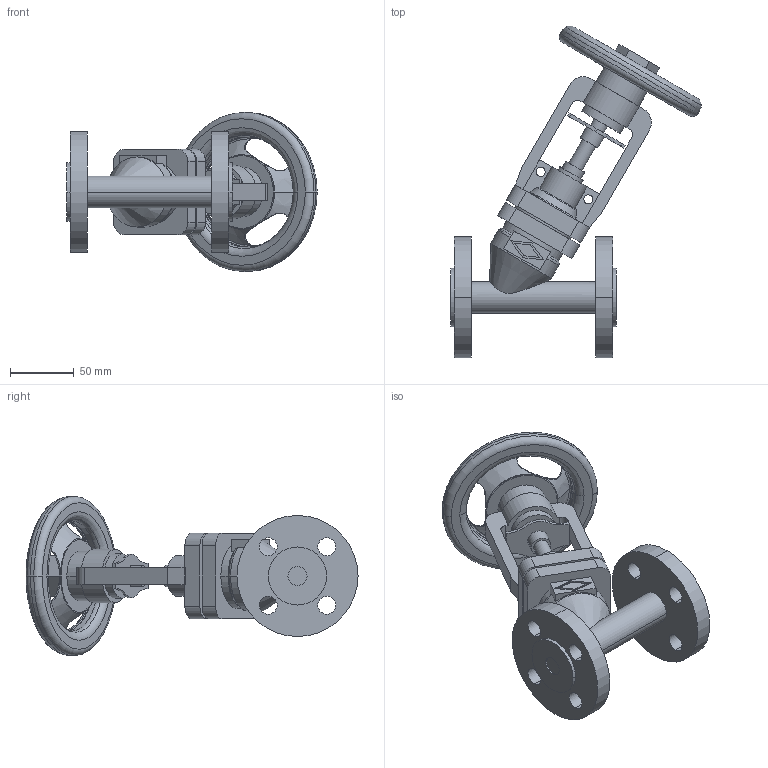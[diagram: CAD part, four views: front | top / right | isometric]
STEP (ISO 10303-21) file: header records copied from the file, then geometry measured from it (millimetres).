
FILE_DESCRIPTION(('OneSpaceDesigner STEP Export'),'2;1');
FILE_NAME('c000003925.stp','2009-09-17T 8:07:17',(''),(''),'OneSpace Designer STEP processor for AP214 (Solid Model)','OneSpace Modeling 15.50B 03-Nov-2007 (C) CoCreate Software GmbH','');
FILE_SCHEMA(('AUTOMOTIVE_DESIGN { 1 0 10303 214 1 1 1 1 }'));
Length unit declared in the file: millimetre
Products named in the file (1): 1
Bounding box: 196.56 x 260.65 x 125 mm (x, y, z)
Volume: 654185.7 mm3; surface area: 125456.6 mm2
Topology: 1 solids, 1 shells, 211 faces, 563 edges, 369 vertices
Faces by surface type: cylinder 91, plane 80, torus 27, cone 13
Entity records: 11457 total; most frequent: CARTESIAN_POINT 4816, ORIENTED_EDGE 1118, DIRECTION 911, EDGE_CURVE 559, VERTEX_POINT 365, AXIS2_PLACEMENT_3D 328, EDGE_LOOP 256, VECTOR 255
